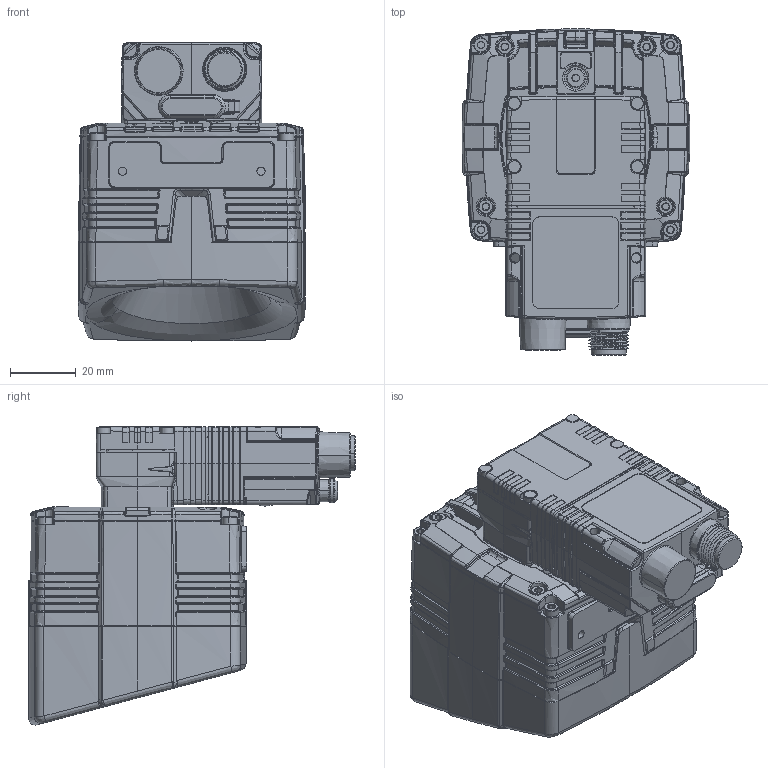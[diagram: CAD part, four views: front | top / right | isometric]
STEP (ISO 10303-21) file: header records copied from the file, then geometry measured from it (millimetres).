
FILE_DESCRIPTION (( 'STEP AP203' ), '1' );
FILE_NAME ('2800_MINI-TORCH-MINI-PECTEN ANGLED.STEP', '2022-03-03T19:58:36', ( '' ), ( '' ), 'SwSTEP 2.0', 'SolidWorks 2021', '' );
FILE_SCHEMA (( 'CONFIG_CONTROL_DESIGN' ));
Products named in the file (1): 2800_MINI-TORCH-MINI-PECTEN ANGLED
Bounding box: 68.96 x 98.94 x 90.33 mm (x, y, z)
Volume: 278592.3 mm3; surface area: 42781.2 mm2
Topology: 1 solids, 33 shells, 5083 faces, 12739 edges, 7715 vertices
Faces by surface type: bspline 1832, plane 1346, cylinder 1054, cone 486, torus 189, sphere 176
Entity records: 210608 total; most frequent: CARTESIAN_POINT 105118, ORIENTED_EDGE 25274, DIRECTION 17915, EDGE_CURVE 12637, VERTEX_POINT 7715, AXIS2_PLACEMENT_3D 6780, EDGE_LOOP 5248, FACE_OUTER_BOUND 5083
